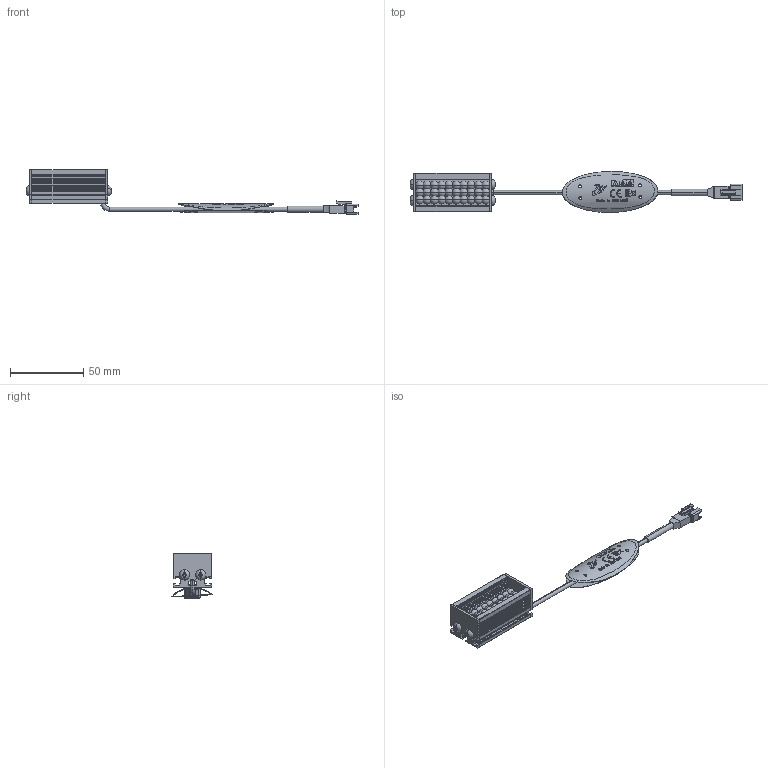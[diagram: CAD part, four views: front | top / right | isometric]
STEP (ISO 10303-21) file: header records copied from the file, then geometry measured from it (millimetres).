
FILE_DESCRIPTION(('STEP AP214'),'1');
FILE_NAME('VBA-5015_DRAWING_3D.step','2023-09-14T00:48:11',(' '),(' '),'Spatial InterOp 3D',' ',' ');
FILE_SCHEMA(('AUTOMOTIVE_DESIGN { 1 0 10303 214 1 1 1 1 }'));
Length unit declared in the file: millimetre
Products named in the file (7): BASE; SIDE PLATE; LED LENS; MXB8146; 3P; CABEL TAG (VS).stp
Assembly tree (10 placements, depth 2):
  (unnamed)
    BASE
    SIDE PLATE  x2
    LED LENS
    MXB8146  x4
    3P
    CABEL TAG (VS).stp
Bounding box: 226 x 27.96 x 30.5 mm (x, y, z)
Volume: 18959 mm3; surface area: 26500.9 mm2
Topology: 11 solids, 11 shells, 884 faces, 2774 edges, 1968 vertices
Faces by surface type: plane 484, cylinder 320, sphere 60, torus 14, bspline 6
Entity records: 37358 total; most frequent: CARTESIAN_POINT 8806, ORIENTED_EDGE 4924, DIRECTION 4434, EDGE_CURVE 2462, VERTEX_POINT 1760, AXIS2_PLACEMENT_3D 1554, LINE 1326, VECTOR 1326
